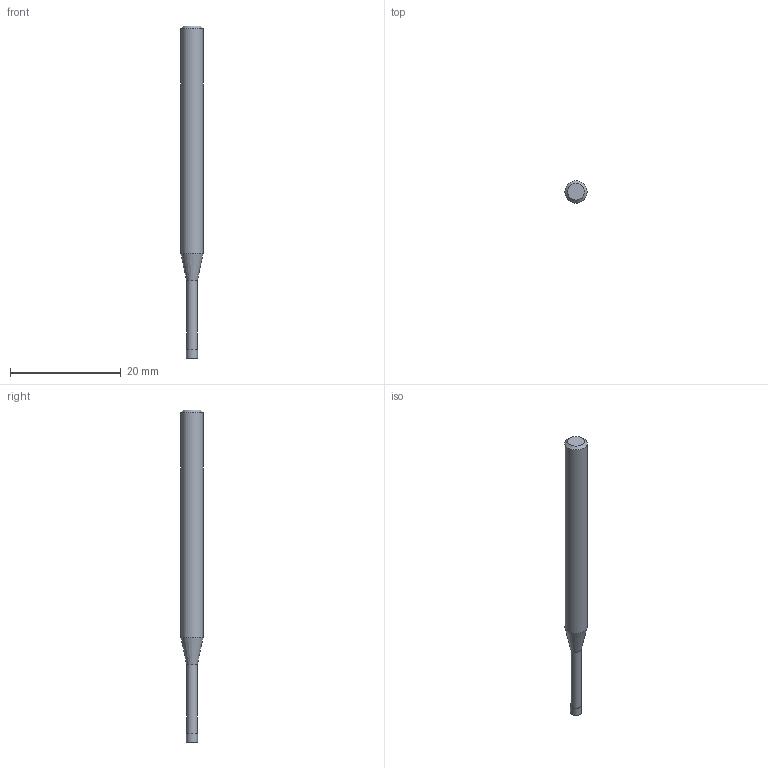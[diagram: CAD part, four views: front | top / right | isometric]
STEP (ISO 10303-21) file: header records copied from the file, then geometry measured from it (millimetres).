
FILE_DESCRIPTION((''),'2;1');
FILE_NAME('C:\Users\nsx150\AppData\Local\Temp\Mastercam 2021\3SYKECWX22\TEMP.step','2021-04-22T09:39:21',(''),(''),'STEP Write','Mastercam 2021 ... CNC Software, Inc.','');
FILE_SCHEMA(('AUTOMOTIVE_DESIGN'));
Length unit declared in the file: millimetre
Products named in the file (1): None
Bounding box: 4 x 4 x 60 mm (x, y, z)
Volume: 592.3 mm3; surface area: 666.8 mm2
Topology: 2 solids, 2 shells, 9 faces, 12 edges, 7 vertices
Faces by surface type: plane 4, cylinder 3, cone 2
Full cylindrical faces by diameter (mm): 1.94 x1, 2 x1, 4 x1
Entity records: 211 total; most frequent: DIRECTION 36, CARTESIAN_POINT 25, AXIS2_PLACEMENT_3D 18, ORIENTED_EDGE 14, EDGE_LOOP 14, STYLED_ITEM 12, ADVANCED_FACE 9, FACE_BOUND 8
